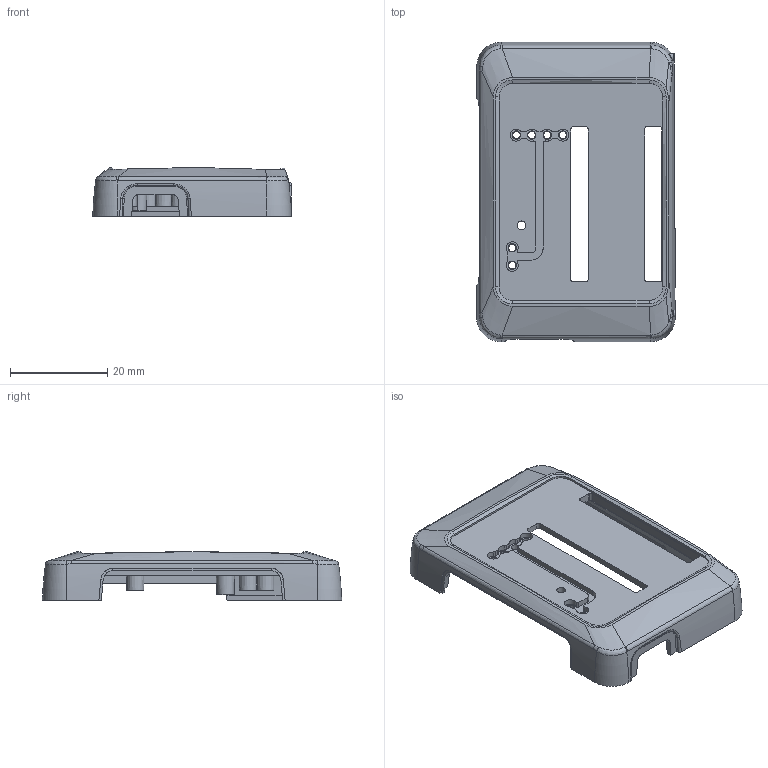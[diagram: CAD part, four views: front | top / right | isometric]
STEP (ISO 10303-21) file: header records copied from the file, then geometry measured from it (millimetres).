
FILE_DESCRIPTION (( 'STEP AP214' ), '1' );
FILE_NAME ('STBP_bracelet_top.STEP', '2024-04-02T09:03:04', ( '' ), ( '' ), 'SwSTEP 2.0', 'SolidWorks 2022', '' );
FILE_SCHEMA (( 'AUTOMOTIVE_DESIGN' ));
Length unit declared in the file: metre
Products named in the file (2): STBP_bracelet_top; BTOPCOVERST2B_2
Assembly tree (1 placements, depth 2):
  STBP_bracelet_top
    BTOPCOVERST2B_2
Bounding box: 40.8 x 61.5 x 10.06 mm (x, y, z)
Volume: 5405.5 mm3; surface area: 7677.5 mm2
Topology: 1 solids, 1 shells, 370 faces, 993 edges, 626 vertices
Faces by surface type: bspline 175, cylinder 80, plane 76, cone 29, torus 10
Full cylindrical faces by diameter (mm): 1.8 x5
Entity records: 27250 total; most frequent: CARTESIAN_POINT 15815, ORIENTED_EDGE 1920, EDGE_CURVE 960, DIRECTION 912, VERTEX_POINT 614, B_SPLINE_CURVE_WITH_KNOTS 508, EDGE_LOOP 410, FACE_OUTER_BOUND 375
